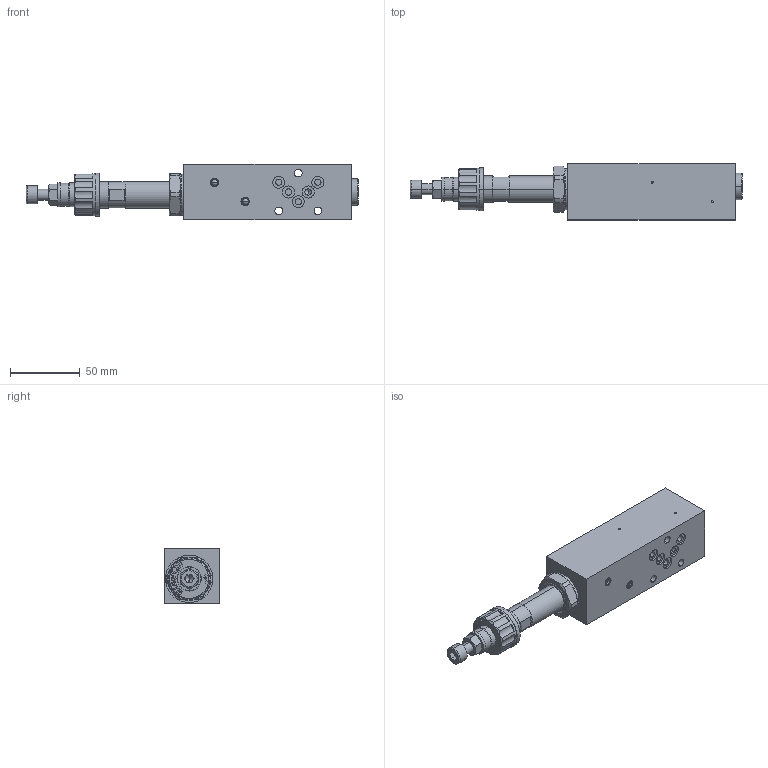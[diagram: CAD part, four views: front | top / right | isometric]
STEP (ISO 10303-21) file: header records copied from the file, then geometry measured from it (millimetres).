
FILE_DESCRIPTION (( 'STEP AP214' ), '1' );
FILE_NAME ('M.IFA04-P_A.STEP', '2017-03-31T06:07:05', ( '' ), ( '' ), 'SwSTEP 2.0', 'SolidWorks 2016', '' );
FILE_SCHEMA (( 'AUTOMOTIVE_DESIGN' ));
Length unit declared in the file: millimetre
Products named in the file (1): M.IFA04-P_A
Bounding box: 237.5 x 40 x 40 mm (x, y, z)
Volume: 226328.6 mm3; surface area: 36916.7 mm2
Topology: 2 solids, 5 shells, 505 faces, 1225 edges, 793 vertices
Faces by surface type: plane 246, cylinder 119, cone 56, bspline 54, torus 18, sphere 12
Entity records: 22588 total; most frequent: CARTESIAN_POINT 5256, ORIENTED_EDGE 2442, DIRECTION 2386, EDGE_CURVE 1221, AXIS2_PLACEMENT_3D 865, VERTEX_POINT 793, VECTOR 656, LINE 656
